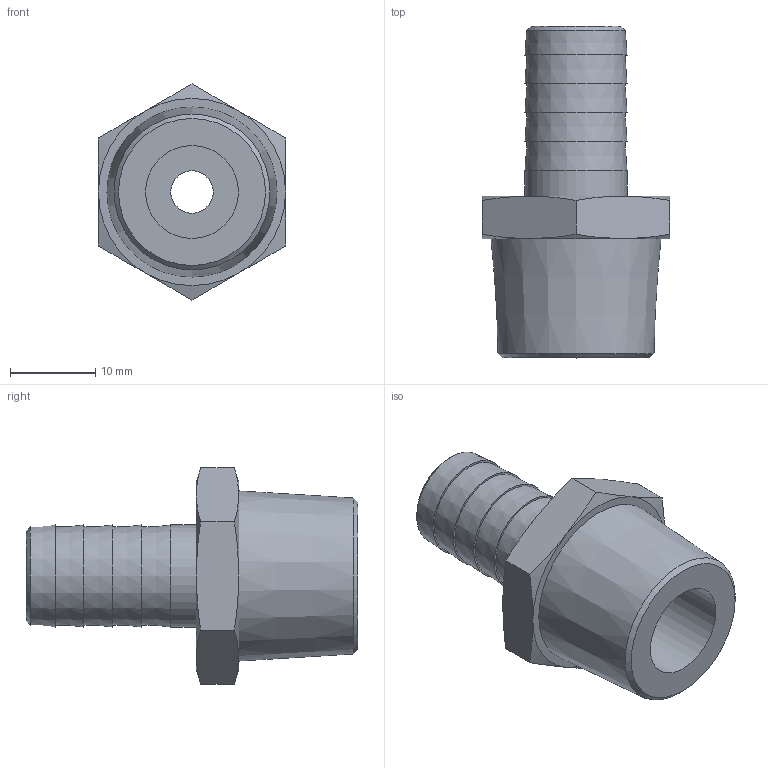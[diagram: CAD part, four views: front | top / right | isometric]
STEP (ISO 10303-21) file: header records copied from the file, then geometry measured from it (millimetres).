
FILE_DESCRIPTION(/* description */ (''),/* implementation_level */ '2;1');
FILE_NAME(/* name */ 'BXH09 12B4 00.stp',/* time_stamp */ '2026-06-22T11:01:20+02:00',/* author */ ('freju'),/* organization */ (''),/* preprocessor_version */ 'ST-DEVELOPER v20.1',/* originating_system */ 'Autodesk Inventor 2026',/* authorisation */ '');
FILE_SCHEMA (('AUTOMOTIVE_DESIGN { 1 0 10303 214 3 1 1 }'));
Length unit declared in the file: millimetre
Products named in the file (1): BXH09 12B4 00
Bounding box: 22 x 39 x 25.4 mm (x, y, z)
Volume: 6343.8 mm3; surface area: 3600.5 mm2
Topology: 1 solids, 1 shells, 38 faces, 74 edges, 45 vertices
Faces by surface type: cone 20, plane 15, cylinder 3
Full cylindrical faces by diameter (mm): 5 x1, 10.9 x1, 12 x1
Entity records: 990 total; most frequent: CARTESIAN_POINT 206, DIRECTION 161, ORIENTED_EDGE 148, EDGE_CURVE 74, AXIS2_PLACEMENT_3D 72, EDGE_LOOP 47, VERTEX_POINT 45, FACE_OUTER_BOUND 38
